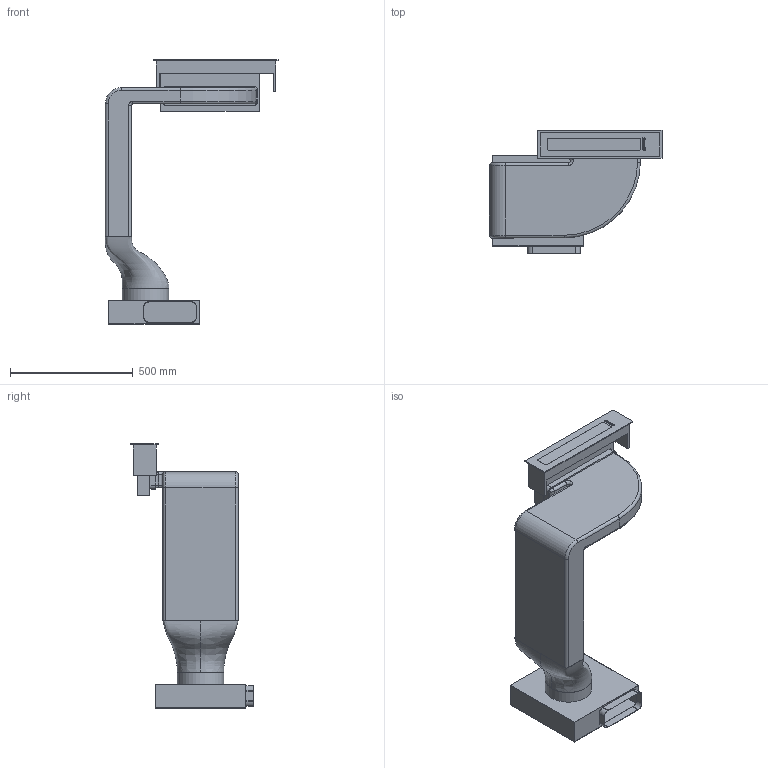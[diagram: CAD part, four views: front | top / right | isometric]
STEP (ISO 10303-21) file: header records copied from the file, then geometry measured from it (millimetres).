
FILE_DESCRIPTION(/* description */ (''),/* implementation_level */ '2;1');
FILE_NAME(/* name */ 'KDH12WLD.stp',/* time_stamp */ '2021-03-03T17:53:16+01:00',/* author */ (''),/* organization */ (''),/* preprocessor_version */ 'ST-DEVELOPER v16',/* originating_system */ 'SIEMENS PLM Software NX 11.0',/* authorisation */ '');
FILE_SCHEMA (('AUTOMOTIVE_DESIGN { 1 0 10303 214 3 1 1 1 }'));
Length unit declared in the file: millimetre
Products named in the file (1): mart294455C2ejtc
Bounding box: 704.49 x 499 x 1075.1 mm (x, y, z)
Volume: 37100205.8 mm3; surface area: 2337247.9 mm2
Topology: 14 solids, 15 shells, 213 faces, 512 edges, 334 vertices
Faces by surface type: plane 120, cylinder 70, extrusion 11, torus 8, bspline 4
Full cylindrical faces by diameter (mm): 4.608 x6, 189 x1
Entity records: 20435 total; most frequent: CARTESIAN_POINT 15307, DIRECTION 1030, ORIENTED_EDGE 1004, EDGE_CURVE 504, AXIS2_PLACEMENT_3D 347, VECTOR 336, VERTEX_POINT 334, LINE 325
